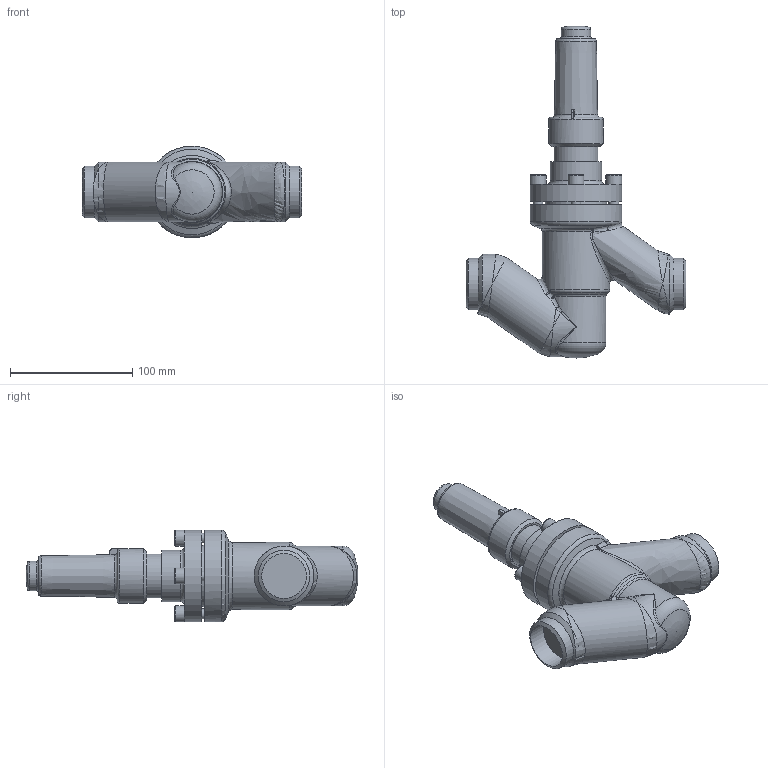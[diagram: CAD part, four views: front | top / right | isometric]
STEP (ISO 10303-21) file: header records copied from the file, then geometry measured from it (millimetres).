
FILE_DESCRIPTION((''),'2;1');
FILE_NAME('Y:\Home\AWP_CAD (2D+3D-Ansicht)\CAD Drawings\3D_STEP\AVR D AE\AVR D AE 26G00-032 PS25.stp','2012-08-27T09:40:36',('Lempe.Ha'),(''),'Autodesk Inventor 2012','Autodesk Inventor 2012','');
FILE_SCHEMA(('AUTOMOTIVE_DESIGN { 1 0 10303 214 1 1 1 1 }'));
Length unit declared in the file: millimetre
Products named in the file (5): 26G00C13A5A30000; 16G00E13.5034004; 16402.13.3180003; 26300E13.5141004; DIN 912 - ersetzt durch DIN EN ISO 4762 M8 x 25
Assembly tree (7 placements, depth 2):
  26G00C13A5A30000
    16G00E13.5034004
    16402.13.3180003
    26300E13.5141004
    DIN 912 - ersetzt durch DIN EN ISO 4762 M8 x 25  x4
Bounding box: 180 x 271.68 x 75 mm (x, y, z)
Volume: 471934.6 mm3; surface area: 118407.6 mm2
Topology: 6 solids, 7 shells, 219 faces, 501 edges, 302 vertices
Faces by surface type: plane 69, cylinder 57, bspline 38, cone 29, torus 23, sphere 3
Full cylindrical faces by diameter (mm): 6.647 x4, 8 x4, 9 x4, 13 x4, 16.7 x1, 21.7 x1, 24 x1, 25.6 x1, 26 x2, 27 x1, 30 x1, 32 x1, 33 x1, 33.835 x1, 36 x2, 36.5 x1, 36.6 x2, 37.5 x1, 39.1 x1, 40.987 x1, 42 x1, 42.4 x2, 43 x3, 45 x1, 48 x1, 49 x2, 50 x2, 54.987 x1, 75 x2
Entity records: 6272 total; most frequent: CARTESIAN_POINT 2847, DIRECTION 636, ORIENTED_EDGE 570, AXIS2_PLACEMENT_3D 303, EDGE_CURVE 285, EDGE_LOOP 279, VERTEX_POINT 216, FACE_OUTER_BOUND 174
